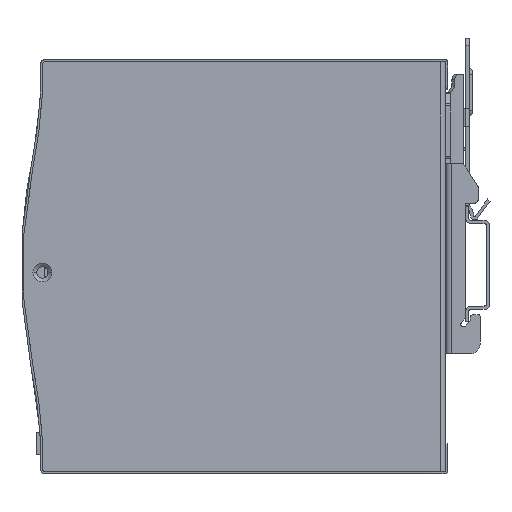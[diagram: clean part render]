
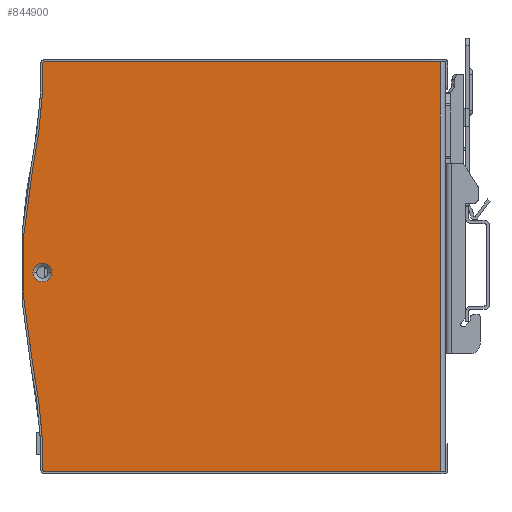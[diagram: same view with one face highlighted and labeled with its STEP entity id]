
A CAD part, front view. The second image highlights one B-rep face of the part: STEP entity #844900.
In plain terms, the highlighted planar face has unit normal (0, -1, 0).
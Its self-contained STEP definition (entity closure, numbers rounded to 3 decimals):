
#843530=CARTESIAN_POINT('',(95.953,13.236,74.));
#843540=VERTEX_POINT('',#843530);
#843570=CARTESIAN_POINT('',(95.953,13.236,74.));
#843580=DIRECTION('',(-1.,0.,0.));
#843590=VECTOR('',#843580,1.);
#843600=LINE('',#843570,#843590);
#843610=CARTESIAN_POINT('',(-23.789,13.236,74.
));
#843620=VERTEX_POINT('',#843610);
#843630=EDGE_CURVE('',#843540,#843620,#843600,.T.);
#843790=CARTESIAN_POINT('',(-23.789,13.236,74.));
#843800=CARTESIAN_POINT('',(-23.859,13.236,74.));
#843810=CARTESIAN_POINT('',(-23.986,13.236,73.973
));
#843820=CARTESIAN_POINT('',(-24.152,13.236,73.863
));
#843830=CARTESIAN_POINT('',(-24.262,13.236,73.697
));
#843840=CARTESIAN_POINT('',(-24.29,13.236,73.57)
);
#843850=CARTESIAN_POINT('',(-24.289,13.236,73.501
));
#843860=B_SPLINE_CURVE_WITH_KNOTS('',3,(#843790,#843800,#843810,#843820,
#843830,#843840,#843850),.UNSPECIFIED.,.F.,.F.,(4,1,1,1,4),(0.,0.25,0.5,
0.75,1.),.UNSPECIFIED.);
#843870=CARTESIAN_POINT('',(-24.289,13.236,73.495
));
#843880=VERTEX_POINT('',#843870);
#843890=EDGE_CURVE('',#843620,#843880,#843860,.T.);
#844130=CARTESIAN_POINT('',(-13.667,13.236,0.));
#844140=DIRECTION('',(0.,-1.,0.));
#844150=DIRECTION('',(-1.,0.,0.));
#844160=AXIS2_PLACEMENT_3D('',#844130,#844140,#844150);
#844170=PLANE('',#844160);
#844180=CARTESIAN_POINT('',(-24.289,13.236,
-49.501));
#844190=CARTESIAN_POINT('',(-24.29,13.236,
-49.57));
#844200=CARTESIAN_POINT('',(-24.262,13.236,
-49.697));
#844210=CARTESIAN_POINT('',(-24.152,13.236,
-49.863));
#844220=CARTESIAN_POINT('',(-23.986,13.236,-49.973
));
#844230=CARTESIAN_POINT('',(-23.859,13.236,-50.));
#844240=CARTESIAN_POINT('',(-23.789,13.236,-50.));
#844250=B_SPLINE_CURVE_WITH_KNOTS('',3,(#844180,#844190,#844200,#844210,
#844220,#844230,#844240),.UNSPECIFIED.,.F.,.F.,(4,1,1,1,4),(0.,0.25,0.5,
0.75,1.),.UNSPECIFIED.);
#844260=CARTESIAN_POINT('',(-24.289,13.236,
-49.498));
#844270=VERTEX_POINT('',#844260);
#844280=CARTESIAN_POINT('',(-23.789,13.236,-50.));
#844290=VERTEX_POINT('',#844280);
#844300=EDGE_CURVE('',#844270,#844290,#844250,.T.);
#844310=ORIENTED_EDGE('',*,*,#844300,.T.);
#844320=CARTESIAN_POINT('',(-174.282,13.236,
-48.019));
#844330=DIRECTION('',(-0.,1.,0.));
#844340=DIRECTION('',(0.98,0.,0.2));
#844350=AXIS2_PLACEMENT_3D('',#844320,#844330,#844340);
#844360=CIRCLE('',#844350,150.);
#844370=CARTESIAN_POINT('',(-27.314,13.236,
-18.01));
#844380=VERTEX_POINT('',#844370);
#844390=EDGE_CURVE('',#844380,#844270,#844360,.T.);
#844400=ORIENTED_EDGE('',*,*,#844390,.T.);
#844410=CARTESIAN_POINT('',(119.653,13.236,12.)
);
#844420=DIRECTION('',(0.,-1.,0.));
#844430=DIRECTION('',(-0.98,0.,0.2));
#844440=AXIS2_PLACEMENT_3D('',#844410,#844420,#844430);
#844450=CIRCLE('',#844440,150.);
#844460=CARTESIAN_POINT('',(-27.314,13.236,42.01)
);
#844470=VERTEX_POINT('',#844460);
#844480=EDGE_CURVE('',#844470,#844380,#844450,.T.);
#844490=ORIENTED_EDGE('',*,*,#844480,.T.);
#844500=CARTESIAN_POINT('',(-174.282,13.236,72.019
));
#844510=DIRECTION('',(-0.,1.,0.));
#844520=DIRECTION('',(1.,0.,0.01));
#844530=AXIS2_PLACEMENT_3D('',#844500,#844510,#844520);
#844540=CIRCLE('',#844530,150.);
#844550=EDGE_CURVE('',#843880,#844470,#844540,.T.);
#844560=ORIENTED_EDGE('',*,*,#844550,.T.);
#844570=ORIENTED_EDGE('',*,*,#843890,.T.);
#844580=ORIENTED_EDGE('',*,*,#843630,.T.);
#844590=CARTESIAN_POINT('',(95.953,13.236,74.));
#844600=DIRECTION('',(0.,0.,-1.));
#844610=VECTOR('',#844600,1.);
#844620=LINE('',#844590,#844610);
#844630=CARTESIAN_POINT('',(95.953,13.236,-50.));
#844640=VERTEX_POINT('',#844630);
#844650=EDGE_CURVE('',#843540,#844640,#844620,.T.);
#844660=ORIENTED_EDGE('',*,*,#844650,.F.);
#844670=CARTESIAN_POINT('',(95.953,13.236,-50.));
#844680=DIRECTION('',(-1.,0.,0.));
#844690=VECTOR('',#844680,1.);
#844700=LINE('',#844670,#844690);
#844710=EDGE_CURVE('',#844640,#844290,#844700,.T.);
#844720=ORIENTED_EDGE('',*,*,#844710,.F.);
#844730=EDGE_LOOP('',(#844720,#844660,#844580,#844570,#844560,#844490,
#844400,#844310));
#844740=FACE_OUTER_BOUND('',#844730,.T.);
#844750=CARTESIAN_POINT('',(-24.447,13.236,10.25)
);
#844760=DIRECTION('',(-0.,1.,0.));
#844770=DIRECTION('',(1.,0.,0.));
#844780=AXIS2_PLACEMENT_3D('',#844750,#844760,#844770);
#844790=CIRCLE('',#844780,2.85);
#844800=CARTESIAN_POINT('',(-21.597,13.236,10.25)
);
#844810=VERTEX_POINT('',#844800);
#844820=CARTESIAN_POINT('',(-27.297,13.236,10.25)
);
#844830=VERTEX_POINT('',#844820);
#844840=EDGE_CURVE('',#844810,#844830,#844790,.T.);
#844850=ORIENTED_EDGE('',*,*,#844840,.T.);
#844860=EDGE_CURVE('',#844830,#844810,#844790,.T.);
#844870=ORIENTED_EDGE('',*,*,#844860,.T.);
#844880=EDGE_LOOP('',(#844870,#844850));
#844890=FACE_BOUND('',#844880,.T.);
#844900=ADVANCED_FACE('',(#844740,#844890),#844170,.T.);
